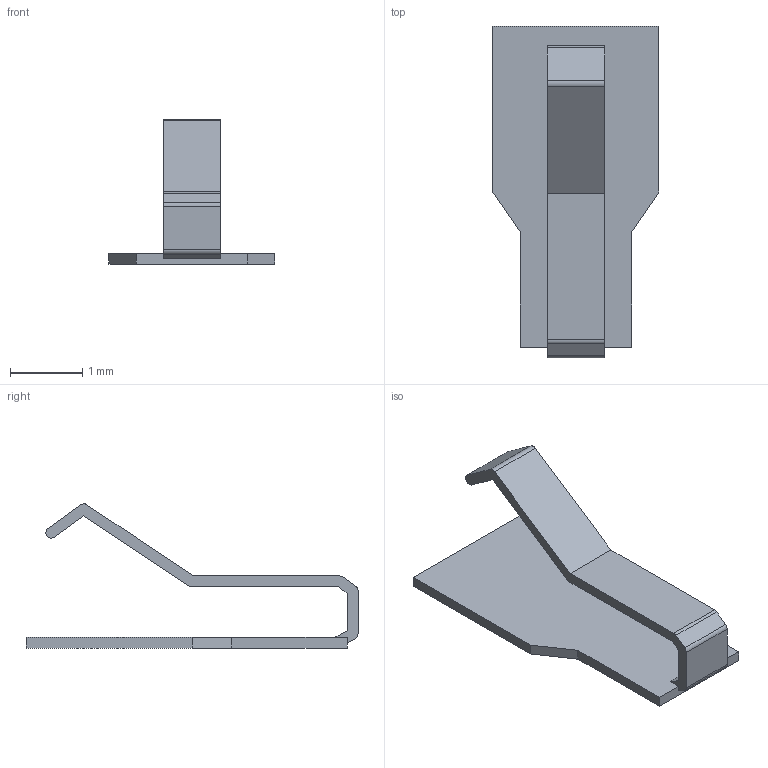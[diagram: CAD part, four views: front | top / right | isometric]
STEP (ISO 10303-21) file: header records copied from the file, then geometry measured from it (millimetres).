
FILE_DESCRIPTION(('Open CASCADE Model'),'2;1');
FILE_NAME('Open CASCADE Shape Model','2026-11-07T09:29:14',('Author'),( 'Open CASCADE'),'Open CASCADE STEP processor 7.9','Open CASCADE 7.9' ,'Unknown');
FILE_SCHEMA(('AUTOMOTIVE_DESIGN { 1 0 10303 214 1 1 1 1 }'));
Length unit declared in the file: millimetre
Products named in the file (1): Open CASCADE STEP translator 7.9 1
Bounding box: 2.3 x 4.6 x 2 mm (x, y, z)
Volume: 2 mm3; surface area: 29.8 mm2
Topology: 1 solids, 1 shells, 30 faces, 84 edges, 56 vertices
Faces by surface type: plane 24, cylinder 6
Entity records: 2062 total; most frequent: CARTESIAN_POINT 339, DIRECTION 326, LINE 228, VECTOR 228, ORIENTED_EDGE 168, PCURVE 168, DEFINITIONAL_REPRESENTATION 168, EDGE_CURVE 84
